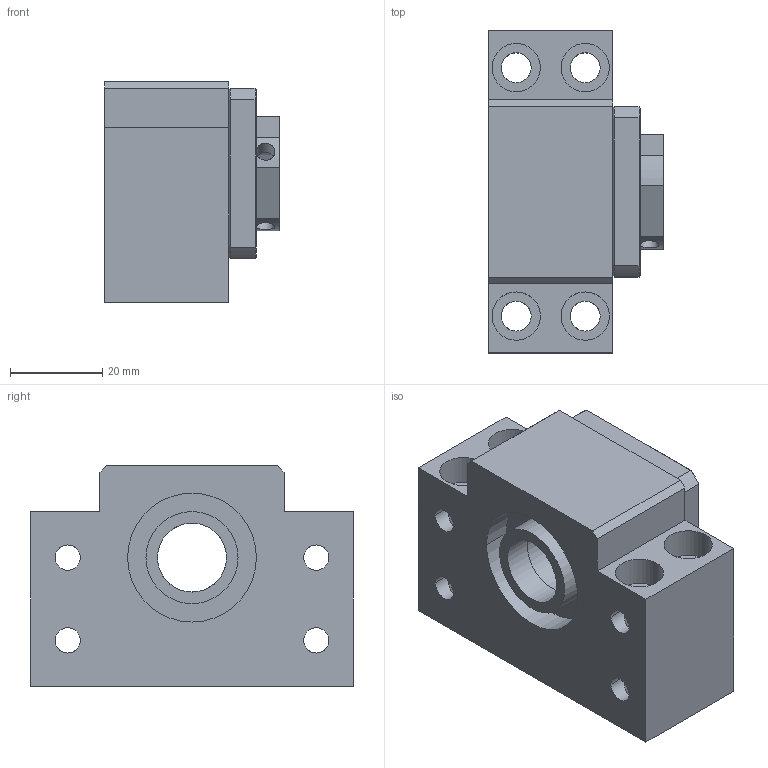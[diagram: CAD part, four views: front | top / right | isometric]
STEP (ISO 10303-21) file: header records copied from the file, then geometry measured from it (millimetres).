
FILE_DESCRIPTION(/* description */ (''),/* implementation_level */ '2;1');
FILE_NAME(/* name */ 'BK15.stp',/* time_stamp */ '2019-07-30T18:33:01+08:00',/* author */ (''),/* organization */ (''),/* preprocessor_version */ 'ST-DEVELOPER v14',/* originating_system */ 'SIEMENS PLM Software NX 8.0',/* authorisation */ '');
FILE_SCHEMA (('AUTOMOTIVE_DESIGN { 1 0 10303 214 3 1 1 1 }'));
Length unit declared in the file: millimetre
Products named in the file (6): GT-20-15-6-BK; BK15-A; BK15-B; M15; 7002; BK15
Assembly tree (7 placements, depth 2):
  BK15
    7002  x2
    M15
    BK15-B
    BK15-A
    GT-20-15-6-BK  x2
Bounding box: 38 x 70 x 48 mm (x, y, z)
Volume: 72327.6 mm3; surface area: 30499.3 mm2
Topology: 7 solids, 7 shells, 148 faces, 383 edges, 248 vertices
Faces by surface type: cylinder 78, plane 55, cone 12, torus 3
Full cylindrical faces by diameter (mm): 4 x2, 4.5 x4, 8 x4, 10.5 x4, 15 x5, 20 x2, 21 x1, 28 x1, 32 x3
Entity records: 5722 total; most frequent: CARTESIAN_POINT 2156, ORIENTED_EDGE 682, DIRECTION 680, EDGE_CURVE 341, AXIS2_PLACEMENT_3D 275, VERTEX_POINT 239, EDGE_LOOP 222, ADVANCED_FACE 140
